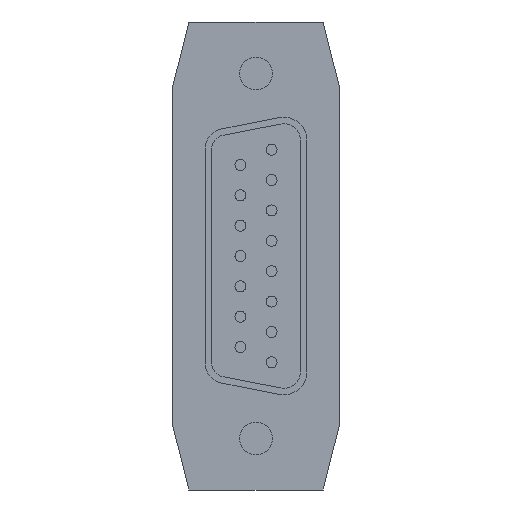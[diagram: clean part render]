
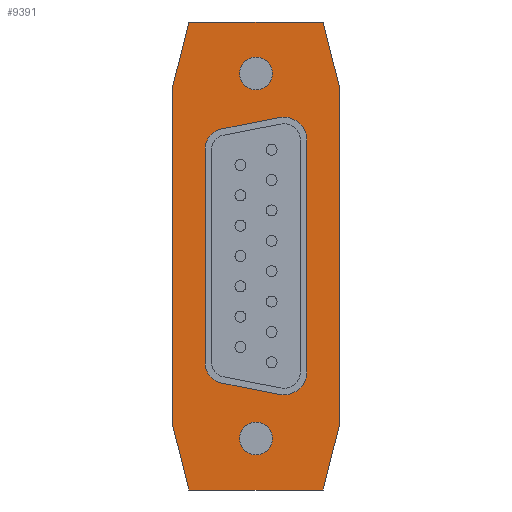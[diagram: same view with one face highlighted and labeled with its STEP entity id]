
A CAD part, left-side view. The second image highlights one B-rep face of the part: STEP entity #9391.
In plain terms, the highlighted planar face has unit normal (-1, 0, 0) as drawn and (0, -1, 0) by its records, which use the part's own axes.
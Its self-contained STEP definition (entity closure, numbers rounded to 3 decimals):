
#7978=DIRECTION('',(-0.97,0.,0.243));
#7979=VECTOR('',#7978,6.082);
#7980=CARTESIAN_POINT('',(-15.45,0.,-7.6));
#7981=LINE('',#7980,#7979);
#7982=DIRECTION('',(0.,0.,1.));
#7983=VECTOR('',#7982,12.25);
#7984=CARTESIAN_POINT('',(-21.35,0.,-6.125));
#7985=LINE('',#7984,#7983);
#7986=DIRECTION('',(0.97,0.,0.243));
#7987=VECTOR('',#7986,6.082);
#7988=CARTESIAN_POINT('',(-21.35,0.,6.125));
#7989=LINE('',#7988,#7987);
#7990=DIRECTION('',(1.,0.,0.));
#7991=VECTOR('',#7990,30.9);
#7992=CARTESIAN_POINT('',(-15.45,0.,7.6));
#7993=LINE('',#7992,#7991);
#7994=DIRECTION('',(0.97,0.,-0.243));
#7995=VECTOR('',#7994,6.082);
#7996=CARTESIAN_POINT('',(15.45,0.,7.6));
#7997=LINE('',#7996,#7995);
#7998=DIRECTION('',(0.,0.,-1.));
#7999=VECTOR('',#7998,12.25);
#8000=CARTESIAN_POINT('',(21.35,0.,6.125));
#8001=LINE('',#8000,#7999);
#8002=DIRECTION('',(-0.97,0.,-0.243));
#8003=VECTOR('',#8002,6.082);
#8004=CARTESIAN_POINT('',(21.35,0.,-6.125));
#8005=LINE('',#8004,#8003);
#8006=DIRECTION('',(-1.,0.,0.));
#8007=VECTOR('',#8006,30.9);
#8008=CARTESIAN_POINT('',(15.45,0.,-7.6));
#8009=LINE('',#8008,#8007);
#8010=DIRECTION('',(0.191,0.,-0.982));
#8011=VECTOR('',#8010,5.36);
#8012=CARTESIAN_POINT('',(-12.628,0.,2.149));
#8013=LINE('',#8012,#8011);
#8014=CARTESIAN_POINT('',(-9.74,0.,-2.75));
#8015=DIRECTION('',(0.,-1.,0.));
#8016=DIRECTION('',(-0.982,0.,-0.191));
#8017=AXIS2_PLACEMENT_3D('',#8014,#8015,#8016);
#8019=DIRECTION('',(1.,0.,0.));
#8020=VECTOR('',#8019,19.48);
#8021=CARTESIAN_POINT('',(-9.74,0.,-4.65));
#8022=LINE('',#8021,#8020);
#8023=CARTESIAN_POINT('',(9.74,0.,-2.75));
#8024=DIRECTION('',(0.,-1.,0.));
#8025=DIRECTION('',(0.,0.,-1.));
#8026=AXIS2_PLACEMENT_3D('',#8023,#8024,#8025);
#8028=DIRECTION('',(0.191,0.,0.982));
#8029=VECTOR('',#8028,5.36);
#8030=CARTESIAN_POINT('',(11.605,0.,-3.113));
#8031=LINE('',#8030,#8029);
#8032=CARTESIAN_POINT('',(10.566,0.,2.55));
#8033=DIRECTION('',(0.,-1.,0.));
#8034=DIRECTION('',(0.982,0.,-0.191));
#8035=AXIS2_PLACEMENT_3D('',#8032,#8033,#8034);
#8037=DIRECTION('',(-1.,0.,0.));
#8038=VECTOR('',#8037,21.133);
#8039=CARTESIAN_POINT('',(10.566,0.,4.65));
#8040=LINE('',#8039,#8038);
#8041=CARTESIAN_POINT('',(-10.566,0.,2.55));
#8042=DIRECTION('',(0.,-1.,0.));
#8043=DIRECTION('',(0.,0.,1.));
#8044=AXIS2_PLACEMENT_3D('',#8041,#8042,#8043);
#8046=CARTESIAN_POINT('',(-16.65,0.,0.));
#8047=DIRECTION('',(0.,1.,0.));
#8048=DIRECTION('',(1.,0.,0.));
#8049=AXIS2_PLACEMENT_3D('',#8046,#8047,#8048);
#8051=CARTESIAN_POINT('',(-16.65,0.,0.));
#8052=DIRECTION('',(0.,1.,0.));
#8053=DIRECTION('',(-1.,0.,0.));
#8054=AXIS2_PLACEMENT_3D('',#8051,#8052,#8053);
#8056=CARTESIAN_POINT('',(16.65,0.,0.));
#8057=DIRECTION('',(0.,-1.,0.));
#8058=DIRECTION('',(-1.,0.,0.));
#8059=AXIS2_PLACEMENT_3D('',#8056,#8057,#8058);
#8061=CARTESIAN_POINT('',(16.65,0.,0.));
#8062=DIRECTION('',(0.,-1.,0.));
#8063=DIRECTION('',(1.,0.,0.));
#8064=AXIS2_PLACEMENT_3D('',#8061,#8062,#8063);
#9026=CARTESIAN_POINT('',(-15.45,0.,-7.6));
#9027=CARTESIAN_POINT('',(-21.35,0.,-6.125));
#9028=VERTEX_POINT('',#9026);
#9029=VERTEX_POINT('',#9027);
#9030=CARTESIAN_POINT('',(-21.35,0.,6.125));
#9031=VERTEX_POINT('',#9030);
#9032=CARTESIAN_POINT('',(-15.45,0.,7.6));
#9033=VERTEX_POINT('',#9032);
#9034=CARTESIAN_POINT('',(15.45,0.,7.6));
#9035=VERTEX_POINT('',#9034);
#9036=CARTESIAN_POINT('',(21.35,0.,6.125));
#9037=VERTEX_POINT('',#9036);
#9038=CARTESIAN_POINT('',(21.35,0.,-6.125));
#9039=VERTEX_POINT('',#9038);
#9040=CARTESIAN_POINT('',(15.45,0.,-7.6));
#9041=VERTEX_POINT('',#9040);
#9074=CARTESIAN_POINT('',(-12.628,0.,2.149));
#9075=CARTESIAN_POINT('',(-11.605,0.,-3.113));
#9076=VERTEX_POINT('',#9074);
#9077=VERTEX_POINT('',#9075);
#9078=CARTESIAN_POINT('',(-9.74,0.,-4.65));
#9079=CARTESIAN_POINT('',(9.74,0.,-4.65));
#9080=VERTEX_POINT('',#9078);
#9081=VERTEX_POINT('',#9079);
#9082=CARTESIAN_POINT('',(11.605,0.,-3.113));
#9083=CARTESIAN_POINT('',(12.628,0.,2.149));
#9084=VERTEX_POINT('',#9082);
#9085=VERTEX_POINT('',#9083);
#9086=CARTESIAN_POINT('',(10.566,0.,4.65));
#9087=CARTESIAN_POINT('',(-10.566,0.,4.65));
#9088=VERTEX_POINT('',#9086);
#9089=VERTEX_POINT('',#9087);
#9198=CARTESIAN_POINT('',(-15.15,0.,0.));
#9199=CARTESIAN_POINT('',(-18.15,0.,0.));
#9200=VERTEX_POINT('',#9198);
#9201=VERTEX_POINT('',#9199);
#9246=CARTESIAN_POINT('',(15.15,0.,0.));
#9247=CARTESIAN_POINT('',(18.15,0.,0.));
#9248=VERTEX_POINT('',#9246);
#9249=VERTEX_POINT('',#9247);
#9338=CARTESIAN_POINT('',(0.,0.,0.));
#9339=DIRECTION('',(0.,1.,0.));
#9340=DIRECTION('',(1.,0.,0.));
#9341=AXIS2_PLACEMENT_3D('',#9338,#9339,#9340);
#9342=PLANE('',#9341);
#9344=ORIENTED_EDGE('',*,*,#9343,.T.);
#9346=ORIENTED_EDGE('',*,*,#9345,.T.);
#9348=ORIENTED_EDGE('',*,*,#9347,.T.);
#9350=ORIENTED_EDGE('',*,*,#9349,.T.);
#9352=ORIENTED_EDGE('',*,*,#9351,.T.);
#9354=ORIENTED_EDGE('',*,*,#9353,.T.);
#9356=ORIENTED_EDGE('',*,*,#9355,.T.);
#9358=ORIENTED_EDGE('',*,*,#9357,.T.);
#9359=EDGE_LOOP('',(#9344,#9346,#9348,#9350,#9352,#9354,#9356,#9358));
#9360=FACE_OUTER_BOUND('',#9359,.F.);
#9362=ORIENTED_EDGE('',*,*,#9361,.T.);
#9364=ORIENTED_EDGE('',*,*,#9363,.T.);
#9366=ORIENTED_EDGE('',*,*,#9365,.T.);
#9368=ORIENTED_EDGE('',*,*,#9367,.T.);
#9370=ORIENTED_EDGE('',*,*,#9369,.T.);
#9372=ORIENTED_EDGE('',*,*,#9371,.T.);
#9374=ORIENTED_EDGE('',*,*,#9373,.T.);
#9376=ORIENTED_EDGE('',*,*,#9375,.T.);
#9377=EDGE_LOOP('',(#9362,#9364,#9366,#9368,#9370,#9372,#9374,#9376));
#9378=FACE_BOUND('',#9377,.F.);
#9380=ORIENTED_EDGE('',*,*,#9379,.F.);
#9382=ORIENTED_EDGE('',*,*,#9381,.F.);
#9383=EDGE_LOOP('',(#9380,#9382));
#9384=FACE_BOUND('',#9383,.F.);
#9386=ORIENTED_EDGE('',*,*,#9385,.T.);
#9388=ORIENTED_EDGE('',*,*,#9387,.T.);
#9389=EDGE_LOOP('',(#9386,#9388));
#9390=FACE_BOUND('',#9389,.F.);
#9391=ADVANCED_FACE('',(#9360,#9378,#9384,#9390),#9342,.F.);
#8018=CIRCLE('',#8017,1.9);
#8027=CIRCLE('',#8026,1.9);
#8036=CIRCLE('',#8035,2.1);
#8045=CIRCLE('',#8044,2.1);
#8050=CIRCLE('',#8049,1.5);
#8055=CIRCLE('',#8054,1.5);
#8060=CIRCLE('',#8059,1.5);
#8065=CIRCLE('',#8064,1.5);
#9343=EDGE_CURVE('',#9028,#9029,#7981,.T.);
#9345=EDGE_CURVE('',#9029,#9031,#7985,.T.);
#9347=EDGE_CURVE('',#9031,#9033,#7989,.T.);
#9349=EDGE_CURVE('',#9033,#9035,#7993,.T.);
#9351=EDGE_CURVE('',#9035,#9037,#7997,.T.);
#9353=EDGE_CURVE('',#9037,#9039,#8001,.T.);
#9355=EDGE_CURVE('',#9039,#9041,#8005,.T.);
#9357=EDGE_CURVE('',#9041,#9028,#8009,.T.);
#9361=EDGE_CURVE('',#9076,#9077,#8013,.T.);
#9363=EDGE_CURVE('',#9077,#9080,#8018,.T.);
#9365=EDGE_CURVE('',#9080,#9081,#8022,.T.);
#9367=EDGE_CURVE('',#9081,#9084,#8027,.T.);
#9369=EDGE_CURVE('',#9084,#9085,#8031,.T.);
#9371=EDGE_CURVE('',#9085,#9088,#8036,.T.);
#9373=EDGE_CURVE('',#9088,#9089,#8040,.T.);
#9375=EDGE_CURVE('',#9089,#9076,#8045,.T.);
#9379=EDGE_CURVE('',#9200,#9201,#8050,.T.);
#9381=EDGE_CURVE('',#9201,#9200,#8055,.T.);
#9385=EDGE_CURVE('',#9248,#9249,#8060,.T.);
#9387=EDGE_CURVE('',#9249,#9248,#8065,.T.);
